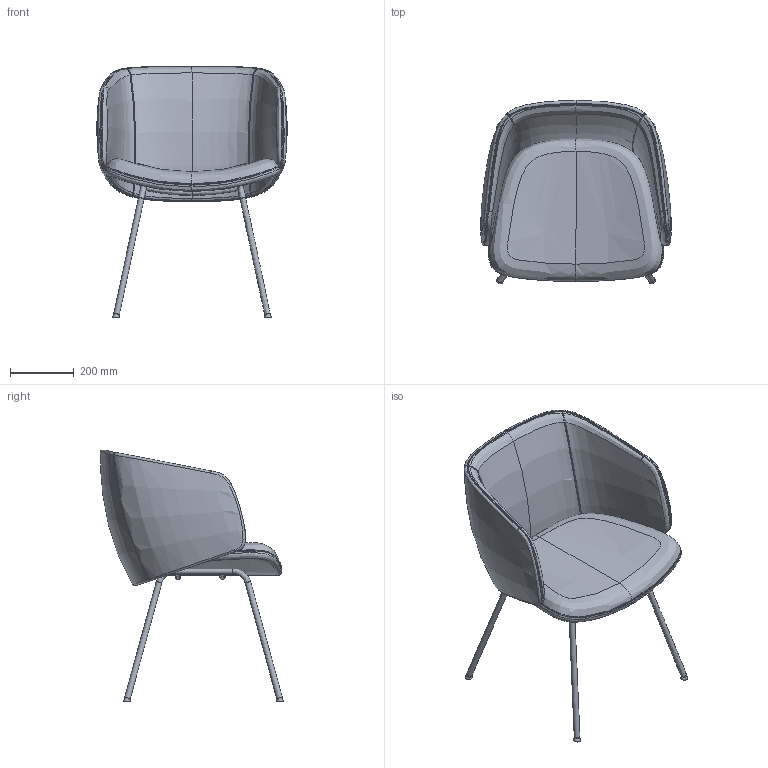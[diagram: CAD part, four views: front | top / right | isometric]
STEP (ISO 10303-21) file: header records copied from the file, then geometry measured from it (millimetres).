
FILE_DESCRIPTION(/* description */ (''),/* implementation_level */ '2;1');
FILE_NAME(/* name */ 'WINX WI 880_09',/* time_stamp */ '2018-09-02T21:16:46+02:00',/* author */ (''),/* organization */ (''),/* preprocessor_version */ 'ST-DEVELOPER v16.5',/* originating_system */ '',/* authorisation */ '');
FILE_SCHEMA (('AUTOMOTIVE_DESIGN'));
Length unit declared in the file: millimetre
Products named in the file (1): Document
Bounding box: 600.84 x 576.5 x 792.92 mm (x, y, z)
Surface area: 1522146.1 mm2
Topology: 4 solids, 20 shells, 134 faces, 299 edges, 180 vertices
Faces by surface type: bspline 122, plane 12
Entity records: 28044 total; most frequent: CARTESIAN_POINT 26198, ORIENTED_EDGE 504, EDGE_CURVE 288, B_SPLINE_CURVE_WITH_KNOTS 195, VERTEX_POINT 174, ADVANCED_FACE 134, FACE_OUTER_BOUND 134, EDGE_LOOP 134
